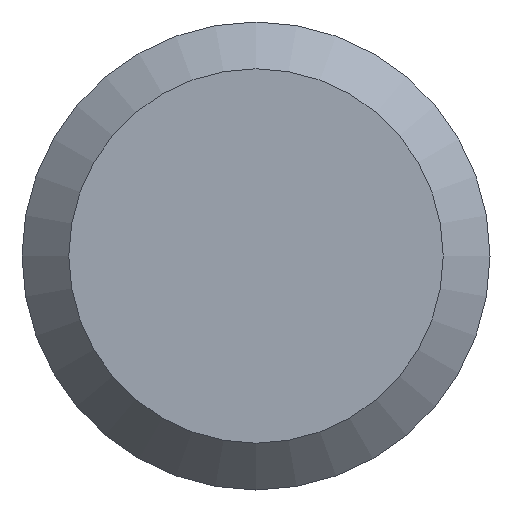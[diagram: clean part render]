
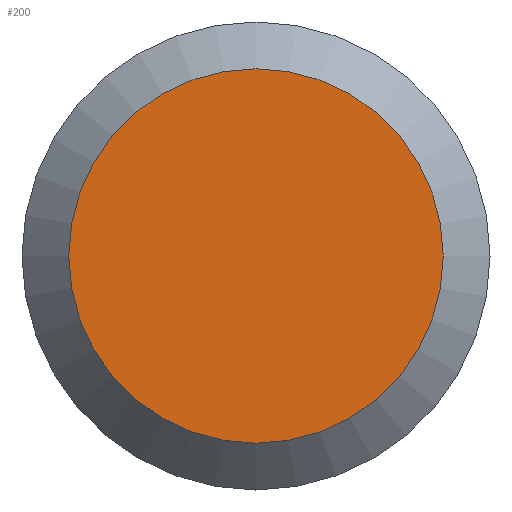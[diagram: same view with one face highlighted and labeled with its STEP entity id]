
A CAD part, left-side view. The second image highlights one B-rep face of the part: STEP entity #200.
In plain terms, the highlighted planar face has unit normal (-1, 0, 0).
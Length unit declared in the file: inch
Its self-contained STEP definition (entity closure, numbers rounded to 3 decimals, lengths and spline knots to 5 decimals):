
#20 = CIRCLE ( 'NONE', #138, 0.125 ) ;
#22 = CARTESIAN_POINT ( 'NONE',  ( 0., 0., -0.125 ) ) ;
#48 = DIRECTION ( 'NONE',  ( 0., 0., -1. ) ) ;
#51 = EDGE_LOOP ( 'NONE', ( #203 ) ) ;
#66 = DIRECTION ( 'NONE',  ( -1., 0., 0. ) ) ;
#124 = DIRECTION ( 'NONE',  ( 1., 0., 0. ) ) ;
#138 = AXIS2_PLACEMENT_3D ( 'NONE', #235, #66, #48 ) ;
#146 = VERTEX_POINT ( 'NONE', #22 ) ;
#151 = DIRECTION ( 'NONE',  ( 0., 0., -1. ) ) ;
#171 = FACE_OUTER_BOUND ( 'NONE', #51, .T. ) ;
#191 = EDGE_CURVE ( 'NONE', #146, #146, #20, .T. ) ;
#200 = ADVANCED_FACE ( 'NONE', ( #171 ), #234, .F. ) ;
#203 = ORIENTED_EDGE ( 'NONE', *, *, #191, .T. ) ;
#222 = CARTESIAN_POINT ( 'NONE',  ( 0., 0.15625, 0. ) ) ;
#234 = PLANE ( 'NONE',  #246 ) ;
#235 = CARTESIAN_POINT ( 'NONE',  ( 0., 0., 0. ) ) ;
#246 = AXIS2_PLACEMENT_3D ( 'NONE', #222, #124, #151 ) ;
